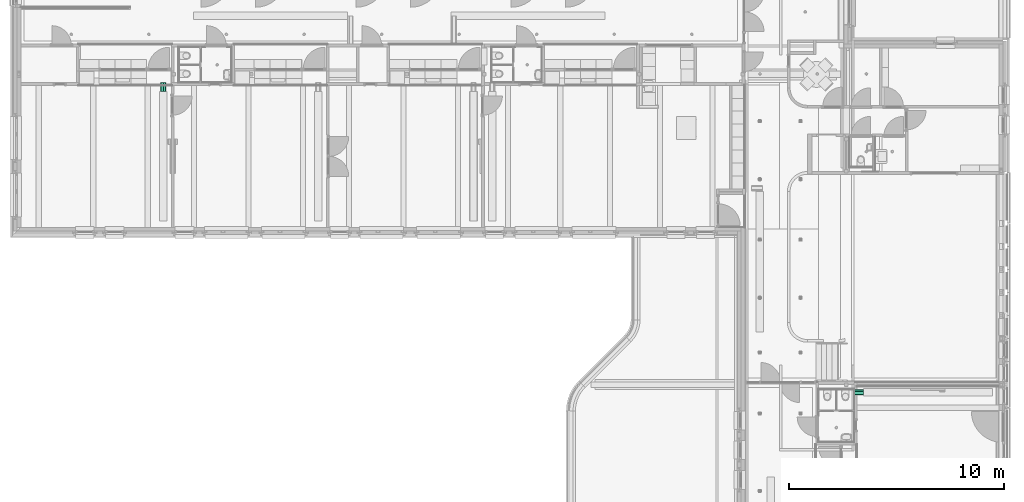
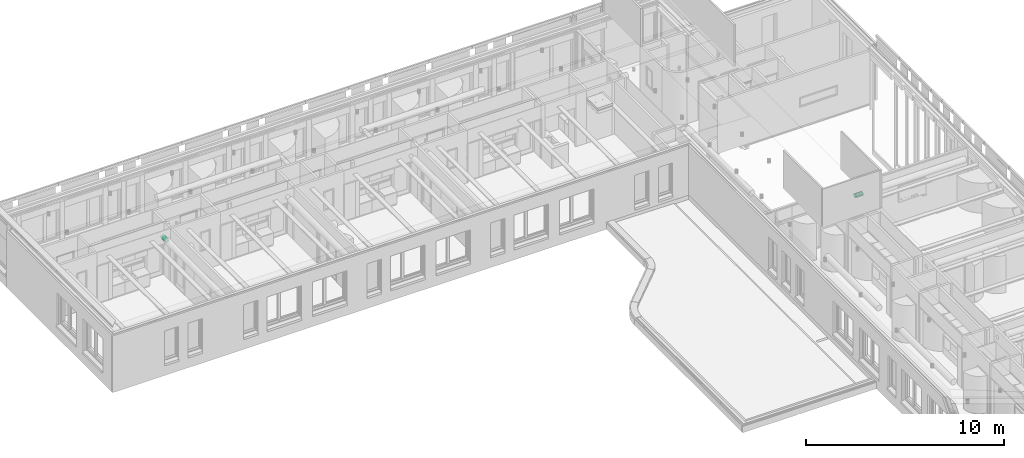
# One storey, part 79 of 128: 2 distribution control elements.
"""IFC2X3 building model written with IfcOpenShell, lengths in millimetres."""

import ifcopenshell
import ifcopenshell.guid

model = None  # the IFC model being written
_history = None  # IfcOwnerHistory: only IFC2X3 demands one
_inside = {}  # id of a spatial element -> (the spatial element, [elements in it])
_under = {}  # id of a project, library or spatial element -> (it, [spatial elements below it])
_declared = {}  # id of a project -> (the project, [libraries it declares])
_typed = {}  # id of a type object -> (the type object, [elements of that type])
_made_of = {}  # id of a material, layer set ... -> (it, [elements and type objects made of it])


def new_model(schema):
    """Start an empty IFC model of exactly this schema.

    Asked for "IFC4X3", IfcOpenShell would pick the latest addendum, in which some entities
    have other attributes; the version numbers below select the first issue.
    IFC2X3 requires an IfcOwnerHistory on every rooted entity: one is made here for all.
    """
    global model, _history
    if schema == "IFC4X3":
        model = ifcopenshell.file(schema_version=(4, 3, 0, 0))
    else:
        model = ifcopenshell.file(schema=schema)
    _inside.clear()
    _under.clear()
    _declared.clear()
    _typed.clear()
    _made_of.clear()
    _history = None
    if model.schema == "IFC2X3":
        org = make("IfcOrganization", Name="unknown")
        user = make(
            "IfcPersonAndOrganization",
            ThePerson=make("IfcPerson", FamilyName="unknown"),
            TheOrganization=org,
        )
        app = make(
            "IfcApplication",
            ApplicationDeveloper=org,
            Version="unknown",
            ApplicationFullName="unknown",
            ApplicationIdentifier="unknown",
        )
        _history = make(
            "IfcOwnerHistory",
            OwningUser=user,
            OwningApplication=app,
            ChangeAction="ADDED",
            CreationDate=0,
        )
    return model


def make(cls, **values):
    """One entity of the class cls with the attributes given. An attribute that is None is left unset."""
    return model.create_entity(
        cls, **{name: value for name, value in values.items() if value is not None}
    )


def entity(cls, *values):
    """Any entity or typed value of the class cls, its attributes in the order of the schema. None: left unset."""
    e = model.create_entity(cls)
    for i, value in enumerate(values):
        if value is not None:
            e[i] = value
    return e


def rooted(cls, **values):
    """An entity with a GlobalId (a new one), such as an element, a storey or a relation."""
    return make(cls, GlobalId=ifcopenshell.guid.new(), OwnerHistory=_history, **values)


def si_unit(unit_type, name, prefix=None):
    """IfcSIUnit, for example si_unit("LENGTHUNIT", "METRE", prefix="MILLI")."""
    return make("IfcSIUnit", UnitType=unit_type, Prefix=prefix, Name=name)


def converted_unit(unit_type, name, factor, base, dimensions=None, offset=None):
    """IfcConversionBasedUnit, such as the inch: factor (a typed value) times the base unit."""
    return make(
        "IfcConversionBasedUnit"
        if offset is None
        else "IfcConversionBasedUnitWithOffset",
        ConversionOffset=offset,
        Dimensions=None
        if dimensions is None
        else entity("IfcDimensionalExponents", *dimensions),
        UnitType=unit_type,
        Name=name,
        ConversionFactor=make(
            "IfcMeasureWithUnit", ValueComponent=factor, UnitComponent=base
        ),
    )


def derived_unit(unit_type, elements):
    """IfcDerivedUnit: a product of units, each with its exponent."""
    return make(
        "IfcDerivedUnit",
        Elements=[
            make("IfcDerivedUnitElement", Unit=unit, Exponent=power)
            for unit, power in elements
        ],
        UnitType=unit_type,
    )


def assignment(units):
    """IfcUnitAssignment: the units of a project."""
    return None if units is None else make("IfcUnitAssignment", Units=units)


def point(xyz):
    """IfcCartesianPoint."""
    return None if xyz is None else make("IfcCartesianPoint", Coordinates=xyz)


def direction(xyz):
    """IfcDirection."""
    return None if xyz is None else make("IfcDirection", DirectionRatios=xyz)


def frame(location, z_axis=None, x_axis=None):
    """IfcAxis2Placement3D, a coordinate frame: its origin and axes. An axis left out is left unset."""
    return make(
        "IfcAxis2Placement3D",
        Location=point(location),
        Axis=direction(z_axis),
        RefDirection=direction(x_axis),
    )


def frame_2d(location, x_axis=None):
    """IfcAxis2Placement2D, a coordinate frame in the plane: its origin and x axis."""
    return make(
        "IfcAxis2Placement2D", Location=point(location), RefDirection=direction(x_axis)
    )


def origin():
    """The frame at (0, 0, 0) with its axes left unset."""
    return frame((0.0, 0.0, 0.0))


def origin_2d_with_axis():
    """The frame at (0, 0) in the plane with the x axis (1, 0) written out."""
    return frame_2d((0.0, 0.0), x_axis=(1.0, 0.0))


def place(relative_to, where):
    """IfcLocalPlacement: puts the frame where relative to a parent placement (None: the world)."""
    return make(
        "IfcLocalPlacement", PlacementRelTo=relative_to, RelativePlacement=where
    )


def context(
    kind, dimensions, precision=None, world=None, true_north=None, identifier=None
):
    """IfcGeometricRepresentationContext, for example the 3D "Model" context."""
    return make(
        "IfcGeometricRepresentationContext",
        ContextIdentifier=identifier,
        ContextType=kind,
        CoordinateSpaceDimension=dimensions,
        Precision=precision,
        WorldCoordinateSystem=world,
        TrueNorth=true_north,
    )


def subcontext(parent, identifier, kind, view, scale=None):
    """IfcGeometricRepresentationSubContext, for example "Body" below "Model"."""
    return make(
        "IfcGeometricRepresentationSubContext",
        ContextIdentifier=identifier,
        ContextType=kind,
        ParentContext=parent,
        TargetScale=scale,
        TargetView=view,
    )


def project(units=None, contexts=None):
    """IfcProject with its units and contexts."""
    return rooted(
        "IfcProject",
        Name="project",
        RepresentationContexts=contexts,
        UnitsInContext=assignment(units),
    )


def spatial(cls, under=None, at=None, **own):
    """A site, building, storey or space (cls), placed at a placement, below another one or the project."""
    s = rooted(cls, ObjectPlacement=at, **own)
    if under is not None:
        _under.setdefault(under.id(), (under, []))[1].append(s)
    return s


def profile(cls, at=None, kind="AREA", **sizes):
    """A parametric profile (cls). Its sizes go by their IFC names, for example OverallWidth=200.0."""
    return make(cls, ProfileType=kind, Position=at, **sizes)


def circle(**sizes):
    """IfcCircleProfileDef."""
    return profile("IfcCircleProfileDef", **sizes)


def extrude(swept, where, along, depth):
    """IfcExtrudedAreaSolid: the profile swept, set in the frame where, extruded along a direction by depth."""
    return make(
        "IfcExtrudedAreaSolid",
        SweptArea=swept,
        Position=where,
        ExtrudedDirection=direction(along),
        Depth=depth,
    )


def shape(context_of_items, identifier, shape_type, items):
    """IfcShapeRepresentation: the items that make up one representation, for example the "Body"."""
    return make(
        "IfcShapeRepresentation",
        ContextOfItems=context_of_items,
        RepresentationIdentifier=identifier,
        RepresentationType=shape_type,
        Items=items,
    )


def source(mapping_origin, context_of_items, identifier, shape_type, items):
    """IfcRepresentationMap: a shape defined once, which mapped items show again and again."""
    return make(
        "IfcRepresentationMap",
        MappingOrigin=mapping_origin,
        MappedRepresentation=shape(context_of_items, identifier, shape_type, items),
    )


def transform(
    local_origin,
    x_axis=None,
    y_axis=None,
    z_axis=None,
    scale=None,
    scale2=None,
    scale3=None,
    uniform=True,
):
    """IfcCartesianTransformationOperator3D, or its non-uniform kind. x_axis, y_axis, z_axis: its Axis1, 2, 3."""
    if uniform:
        return make(
            "IfcCartesianTransformationOperator3D",
            Axis1=direction(x_axis),
            Axis2=direction(y_axis),
            LocalOrigin=point(local_origin),
            Scale=scale,
            Axis3=direction(z_axis),
        )
    return make(
        "IfcCartesianTransformationOperator3DnonUniform",
        Axis1=direction(x_axis),
        Axis2=direction(y_axis),
        LocalOrigin=point(local_origin),
        Scale=scale,
        Axis3=direction(z_axis),
        Scale2=scale2,
        Scale3=scale3,
    )


def mapped(mapping_source, mapping_target):
    """IfcMappedItem: shows the shape of a source again, moved by a transform."""
    return make(
        "IfcMappedItem", MappingSource=mapping_source, MappingTarget=mapping_target
    )


def material(Name=None, Category=None):
    """IfcMaterial."""
    return make("IfcMaterial", Name=Name, Category=Category)


def made_of(thing, what):
    """Note that an element or type object is made of a material, layer set ...; save() writes the relation."""
    if what is not None:
        _made_of.setdefault(what.id(), (what, []))[1].append(thing)
    return thing


def type_object(cls, material=None, **own):
    """A type object (cls), such as IfcWallType, which elements share."""
    return made_of(rooted(cls, **own), material)


def type_shapes(of_type, sources):
    """Give a type object the sources (RepresentationMaps) that its elements show as mapped items."""
    of_type.RepresentationMaps = sources


def element(
    cls,
    number,
    at=None,
    inside=None,
    cuts=None,
    type_object=None,
    material=None,
    context=None,
    identifier="Body",
    shape_type=None,
    held_by="IfcProductDefinitionShape",
    body=None,
    shapes=None,
    **own,
):
    """One element of the class cls, such as IfcWall. Its Tag is "e" and its number.

    at: its placement. inside: the storey or other place that contains it. cuts: it is an
    opening in that element (IfcRelVoidsElement). A single representation is given by context,
    identifier, shape_type and body (its items); several are given by shapes. held_by: the class
    of the entity that holds the representations. save() writes the other relations.
    """
    e = rooted(cls, Tag="e%d" % number, ObjectPlacement=at, **own)
    if body is not None:
        shapes = [shape(context, identifier, shape_type, body)]
    if shapes is not None:
        e.Representation = make(held_by, Representations=shapes)
    if inside is not None:
        _inside.setdefault(inside.id(), (inside, []))[1].append(e)
    if cuts is not None:
        rooted(
            "IfcRelVoidsElement", RelatingBuildingElement=cuts, RelatedOpeningElement=e
        )
    if type_object is not None:
        _typed.setdefault(type_object.id(), (type_object, []))[1].append(e)
    return made_of(e, material)


def aggregate(whole, parts):
    """IfcRelAggregates: a whole, such as a stair, and the parts it consists of."""
    return rooted("IfcRelAggregates", RelatingObject=whole, RelatedObjects=parts)


def save(model, path):
    """Write the relations noted so far, then the file.

    IfcRelAggregates (storeys below a building ...), IfcRelContainedInSpatialStructure (elements
    in a storey), IfcRelDefinesByType, IfcRelAssociatesMaterial and IfcRelDeclares: one each for
    every whole, place, type object, material and project.
    """
    for whole, parts in _under.values():
        aggregate(whole, parts)
    for where, things in _inside.values():
        rooted(
            "IfcRelContainedInSpatialStructure",
            RelatedElements=things,
            RelatingStructure=where,
        )
    for kind, things in _typed.values():
        rooted("IfcRelDefinesByType", RelatedObjects=things, RelatingType=kind)
    for what, things in _made_of.values():
        rooted("IfcRelAssociatesMaterial", RelatedObjects=things, RelatingMaterial=what)
    for by, libraries in _declared.values():
        rooted("IfcRelDeclares", RelatingContext=by, RelatedDefinitions=libraries)
    model.write(path)


model = new_model("IFC2X3")

# Units and contexts
model_context = context("Model", 3, precision=0.01, world=origin(), true_north=direction((6.123031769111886e-17, 1.0)))
body_context = subcontext(model_context, "Body", "Model", "MODEL_VIEW")
ifc_project = project(units=[si_unit("LENGTHUNIT", "METRE", prefix="MILLI"), si_unit("AREAUNIT", "SQUARE_METRE"), si_unit("VOLUMEUNIT", "CUBIC_METRE"), converted_unit("PLANEANGLEUNIT", "DEGREE", entity("IfcRatioMeasure", 0.017453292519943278), si_unit("PLANEANGLEUNIT", "RADIAN"), dimensions=[0, 0, 0, 0, 0, 0, 0]), si_unit("MASSUNIT", "GRAM", prefix="KILO"), derived_unit("MASSDENSITYUNIT", [(si_unit("MASSUNIT", "GRAM", prefix="KILO"), 1), (si_unit("LENGTHUNIT", "METRE"), -3)]), derived_unit("IONCONCENTRATIONUNIT", [(si_unit("MASSUNIT", "GRAM", prefix="KILO"), 1), (si_unit("LENGTHUNIT", "METRE"), -3)]), derived_unit("MOMENTOFINERTIAUNIT", [(si_unit("LENGTHUNIT", "METRE"), 4)]), si_unit("TIMEUNIT", "SECOND"), si_unit("FREQUENCYUNIT", "HERTZ"), si_unit("THERMODYNAMICTEMPERATUREUNIT", "DEGREE_CELSIUS"), derived_unit("THERMALTRANSMITTANCEUNIT", [(si_unit("MASSUNIT", "GRAM", prefix="KILO"), 1), (si_unit("THERMODYNAMICTEMPERATUREUNIT", "KELVIN"), -1), (si_unit("TIMEUNIT", "SECOND"), -3)]), derived_unit("THERMALCONDUCTANCEUNIT", [(si_unit("MASSUNIT", "GRAM", prefix="KILO"), 1), (si_unit("THERMODYNAMICTEMPERATUREUNIT", "KELVIN"), -1), (si_unit("TIMEUNIT", "SECOND"), -3), (si_unit("LENGTHUNIT", "METRE"), 1)]), derived_unit("VOLUMETRICFLOWRATEUNIT", [(si_unit("LENGTHUNIT", "METRE"), 3), (si_unit("TIMEUNIT", "SECOND"), -1)]), derived_unit("MASSFLOWRATEUNIT", [(si_unit("MASSUNIT", "GRAM", prefix="KILO"), 1), (si_unit("TIMEUNIT", "SECOND"), -1)]), derived_unit("ROTATIONALFREQUENCYUNIT", [(si_unit("TIMEUNIT", "SECOND"), -1)]), si_unit("ELECTRICCURRENTUNIT", "AMPERE"), si_unit("ELECTRICVOLTAGEUNIT", "VOLT"), si_unit("POWERUNIT", "WATT"), si_unit("FORCEUNIT", "NEWTON", prefix="KILO"), si_unit("ILLUMINANCEUNIT", "LUX"), si_unit("LUMINOUSFLUXUNIT", "LUMEN"), si_unit("LUMINOUSINTENSITYUNIT", "CANDELA"), derived_unit("USERDEFINED", [(si_unit("MASSUNIT", "GRAM", prefix="KILO"), -1), (si_unit("LENGTHUNIT", "METRE"), -2), (si_unit("TIMEUNIT", "SECOND"), 3), (si_unit("LUMINOUSFLUXUNIT", "LUMEN"), 1)]), derived_unit("USERDEFINED", [(si_unit("MASSUNIT", "GRAM", prefix="KILO"), 1), (si_unit("TIMEUNIT", "SECOND"), -3), (si_unit("LENGTHUNIT", "METRE"), 3), (si_unit("ELECTRICCURRENTUNIT", "AMPERE"), -2)]), derived_unit("SOUNDPOWERUNIT", [(si_unit("MASSUNIT", "GRAM", prefix="KILO"), 1), (si_unit("TIMEUNIT", "SECOND"), -3), (si_unit("LENGTHUNIT", "METRE"), 2)]), derived_unit("SOUNDPRESSUREUNIT", [(si_unit("MASSUNIT", "GRAM", prefix="KILO"), 1), (si_unit("LENGTHUNIT", "METRE"), -1), (si_unit("TIMEUNIT", "SECOND"), -2)]), derived_unit("LINEARVELOCITYUNIT", [(si_unit("LENGTHUNIT", "METRE"), 1), (si_unit("TIMEUNIT", "SECOND"), -1)]), si_unit("PRESSUREUNIT", "PASCAL"), derived_unit("USERDEFINED", [(si_unit("MASSUNIT", "GRAM", prefix="KILO"), 1), (si_unit("LENGTHUNIT", "METRE"), -2), (si_unit("TIMEUNIT", "SECOND"), -2)]), derived_unit("LINEARFORCEUNIT", [(si_unit("MASSUNIT", "GRAM", prefix="KILO"), 1), (si_unit("TIMEUNIT", "SECOND"), -2)]), derived_unit("PLANARFORCEUNIT", [(si_unit("MASSUNIT", "GRAM", prefix="KILO"), 1), (si_unit("LENGTHUNIT", "METRE"), -1), (si_unit("TIMEUNIT", "SECOND"), -2)]), derived_unit("SPECIFICHEATCAPACITYUNIT", [(si_unit("THERMODYNAMICTEMPERATUREUNIT", "KELVIN"), -1), (si_unit("LENGTHUNIT", "METRE"), 2), (si_unit("TIMEUNIT", "SECOND"), -2)]), derived_unit("HEATINGVALUEUNIT", [(si_unit("LENGTHUNIT", "METRE"), 2), (si_unit("TIMEUNIT", "SECOND"), -2)]), derived_unit("VAPORPERMEABILITYUNIT", [(si_unit("LENGTHUNIT", "METRE"), -1), (si_unit("TIMEUNIT", "SECOND"), 1)]), derived_unit("DYNAMICVISCOSITYUNIT", [(si_unit("MASSUNIT", "GRAM", prefix="KILO"), 1), (si_unit("TIMEUNIT", "SECOND"), -1), (si_unit("LENGTHUNIT", "METRE"), -1)]), derived_unit("THERMALEXPANSIONCOEFFICIENTUNIT", [(si_unit("THERMODYNAMICTEMPERATUREUNIT", "KELVIN"), -1)]), derived_unit("MODULUSOFELASTICITYUNIT", [(si_unit("MASSUNIT", "GRAM", prefix="KILO"), 1), (si_unit("LENGTHUNIT", "METRE"), -1), (si_unit("TIMEUNIT", "SECOND"), -2)]), derived_unit("ISOTHERMALMOISTURECAPACITYUNIT", [(si_unit("LENGTHUNIT", "METRE"), 3), (si_unit("MASSUNIT", "GRAM", prefix="KILO"), -1)]), derived_unit("MOISTUREDIFFUSIVITYUNIT", [(si_unit("TIMEUNIT", "SECOND"), -1), (si_unit("LENGTHUNIT", "METRE"), 2)])], contexts=[model_context])

# Site, building, storey
site_placement = place(None, frame((0.0, 300.0, 0.0)))
site = spatial("IfcSite", under=ifc_project, at=site_placement, Name="<Kadastrale nummers>", CompositionType="ELEMENT")
building_placement = place(site_placement, origin())
building = spatial("IfcBuilding", under=site, at=building_placement, CompositionType="ELEMENT")
storey_placement = place(building_placement, frame((0.0, 0.0, 3560.0000331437)))
storey = spatial("IfcBuildingStorey", under=building, at=storey_placement, Name="01 eerste verdieping", CompositionType="ELEMENT", Elevation=3560.0000331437)

# Distribution control elements
ifc_material = material(Name="<Unnamed>")
controller_type = type_object("IfcControllerType", Name="57_luchtbehandelings buis:Ø 250 op 2946", PredefinedType="NOTDEFINED", material=ifc_material)
shared_shape = source(origin(), body_context, "Body", "SweptSolid", [
    extrude(circle(Radius=125.00000000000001, at=origin_2d_with_axis()), frame((0.0, 0.0, 2800.0), z_axis=(1.0, 0.0, 0.0), x_axis=(0.0, 1.0, 0.0)), (0.0, 0.0, 1.0), 427.4999999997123),
])
type_shapes(controller_type, [shared_shape])
for number, where, z_axis, x_axis in (
    (1, (9705.0, 44497.50000000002, 90.00000187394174), (0.0, 0.0, 1.0), (0.0, 1.0, 0.0)),
    (2, (42202.49999999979, 30550.0, 90.0000018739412), (0.0, 0.0, 1.0), (-1.0, 0.0, 0.0)),
):
    element("IfcDistributionControlElement", number, at=place(storey_placement, frame(where, z_axis=z_axis, x_axis=x_axis)), inside=storey, type_object=controller_type, material=ifc_material, Name="57_luchtbehandelings buis:Ø 250 op 2946", ObjectType="57_luchtbehandelings buis:Ø 250 op 2946", context=body_context, shape_type="MappedRepresentation", body=[
        mapped(shared_shape, transform((0.0, 0.0, 0.0), scale=1.0)),
    ])

save(model, "model.ifc")
